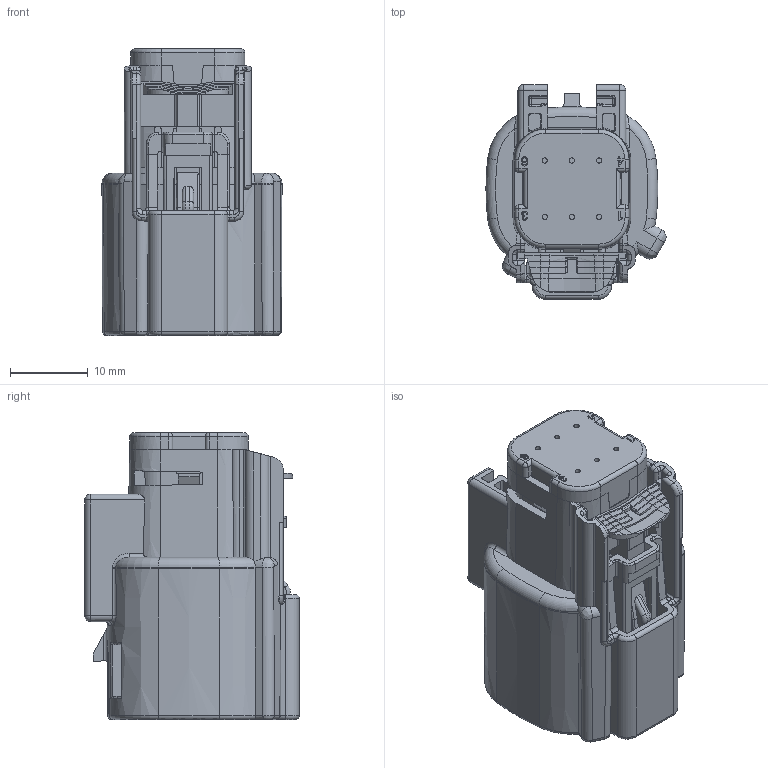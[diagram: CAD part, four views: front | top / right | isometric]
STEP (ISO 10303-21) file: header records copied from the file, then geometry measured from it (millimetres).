
FILE_DESCRIPTION((''),'2;1');
FILE_NAME('334720716','2015-08-18T',('me'),(''),'PRO/ENGINEER BY PARAMETRIC TECHNOLOGY CORPORATION, 2011490','PRO/ENGINEER BY PARAMETRIC TECHNOLOGY CORPORATION, 2011490','');
FILE_SCHEMA(('CONFIG_CONTROL_DESIGN'));
Length unit declared in the file: millimetre
Products named in the file (1): 334720716
Bounding box: 23.22 x 27.66 x 37 mm (x, y, z)
Volume: 10905.8 mm3; surface area: 8625.2 mm2
Topology: 1 solids, 1 shells, 1044 faces, 2908 edges, 1850 vertices
Faces by surface type: plane 537, cylinder 274, torus 99, cone 71, bspline 43, sphere 14, extrusion 6
Entity records: 39164 total; most frequent: CARTESIAN_POINT 12922, ORIENTED_EDGE 5776, DIRECTION 5105, EDGE_CURVE 2888, VERTEX_POINT 1844, VECTOR 1799, LINE 1793, AXIS2_PLACEMENT_3D 1653
